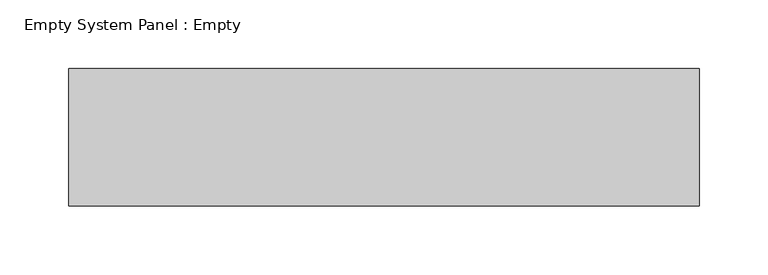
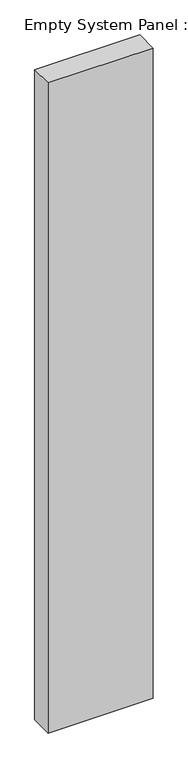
"""IFC4 building model written with IfcOpenShell, lengths in millimetres: plate geometry, Empty System Panel : Empty."""

from ifc_helpers import new_model, si_unit, origin, origin_with_axes, place, context, project, spatial, polyline, outline, extrude, source, transform, mapped, element, save


def empty_system_panel_empty_408a184a(model_context):
    return source(origin(), model_context, "Body", "SweptSolid", [
        extrude(outline(polyline([(229.5, -50.0), (-229.5, -50.0), (-229.5, 50.0), (229.5, 50.0), (229.5, -50.0)])), origin_with_axes(), (0.0, 0.0, 1.0), 3000.0),
    ])


if __name__ == "__main__":
    model = new_model("IFC4")
    model_context = context("Model", 3, world=origin())
    ifc_project = project(units=[si_unit("LENGTHUNIT", "METRE", prefix="MILLI")], contexts=[model_context])
    site = spatial("IfcSite", under=ifc_project)
    building = spatial("IfcBuilding", under=site)
    placement = place(None, origin())
    empty_system_panel_empty_shape = empty_system_panel_empty_408a184a(model_context)
    element("IfcPlate", 1, ObjectType="Empty System Panel : Empty", at=placement, inside=building, context=model_context, shape_type="MappedRepresentation", body=[
        mapped(empty_system_panel_empty_shape, transform((0.0, 0.0, 0.0), x_axis=(1.0, 0.0, 0.0), y_axis=(0.0, 1.0, 0.0), z_axis=(0.0, 0.0, 1.0))),
    ])
    save(model, "model.ifc")
